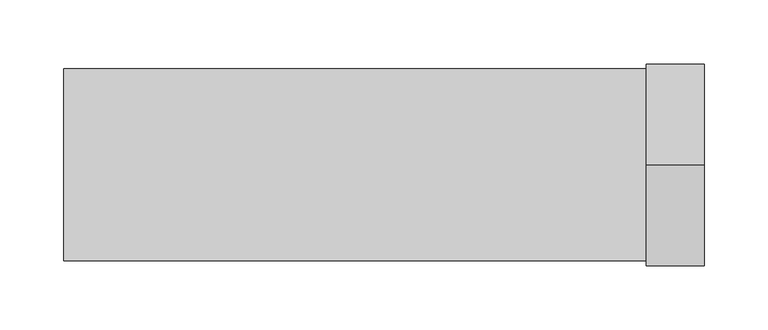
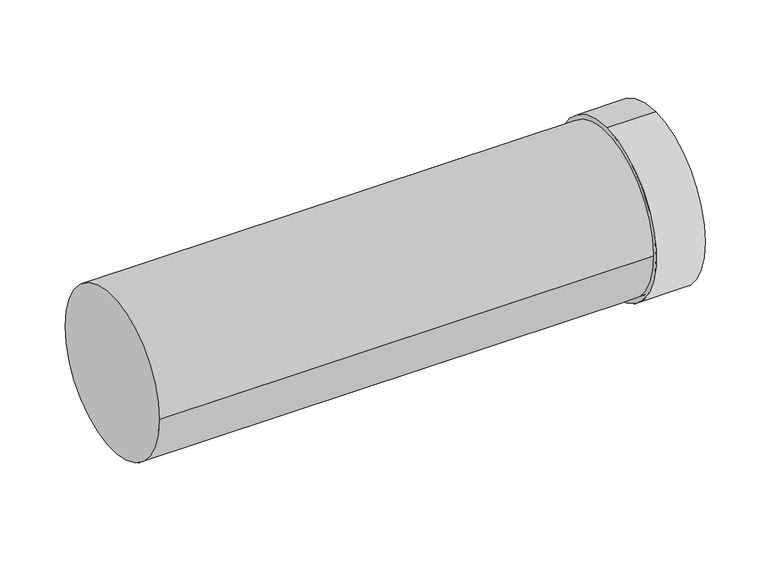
"""IFC4 building model written with IfcOpenShell, lengths in millimetres: duct fitting geometry, RSFen_DUF_UN_Twinline Extension_M&G : ø130-150-200."""

from ifc_helpers import new_model, si_unit, point, frame, origin, origin_2d, place, context, project, spatial, polyline, circle_curve, trimmed, segment, composite_curve, outline, extrude, source, transform, mapped, element, save
from ifc_brep_helpers import plane_surface, cylinder_surface, revolved_surface, advanced_brep


def duct_fitting_7c9a1def(model_context):
    return source(origin(), model_context, "Body", "SolidModel", [
        advanced_brep(
        [(500.0, 0.0, -79.0), (500.0, 0.0, 79.0), (500.0, 0.0, 75.5), (500.0, 0.0, -75.5), (455.0, 0.0, -79.0), (455.0, 0.0, 79.0), (460.0, 0.0, -75.5), (460.0, 0.0, 75.5)],
        [
            (0, 1, circle_curve(frame((500.0, 0.0, 0.0), z_axis=(1.0, 0.0, 0.0), x_axis=(0.0, 0.0, 1.0)), 79.0)),
            (1, 0, circle_curve(frame((500.0, 0.0, 0.0), z_axis=(1.0, 0.0, 0.0), x_axis=(0.0, 0.0, 1.0)), 79.0)),
            (2, 3, circle_curve(frame((500.0, 0.0, 0.0), z_axis=(-1.0, 0.0, 0.0), x_axis=(0.0, 0.0, 1.0)), 75.5)),
            (3, 2, circle_curve(frame((500.0, 0.0, 0.0), z_axis=(-1.0, 0.0, 0.0), x_axis=(0.0, 0.0, 1.0)), 75.5)),
            (4, 5, circle_curve(frame((455.0, 0.0, 0.0), z_axis=(-1.0, 0.0, 0.0), x_axis=(0.0, 0.0, 1.0)), 79.0)),
            (5, 4, circle_curve(frame((455.0, 0.0, 0.0), z_axis=(-1.0, 0.0, 0.0), x_axis=(0.0, 0.0, 1.0)), 79.0)),
            (0, 4),
            (5, 1),
            (6, 7, circle_curve(frame((460.0, 0.0, 0.0), z_axis=(1.0, 0.0, 0.0), x_axis=(0.0, 0.0, 1.0)), 75.5)),
            (7, 6, circle_curve(frame((460.0, 0.0, 0.0), z_axis=(1.0, 0.0, 0.0), x_axis=(0.0, 0.0, 1.0)), 75.5)),
            (6, 3),
            (2, 7),
        ],
        [
            plane_surface(frame((500.0, 0.0, 79.0), z_axis=(1.0, 0.0, 0.0), x_axis=(0.0, -1.0, 0.0))),
            plane_surface(frame((455.0, 0.0, 79.0), z_axis=(-1.0, 0.0, 0.0), x_axis=(0.0, 1.0, 0.0))),
            cylinder_surface(frame((455.0, 0.0, 0.0), z_axis=(1.0, 0.0, 0.0), x_axis=(0.0, 0.0, 1.0)), 79.0),
            plane_surface(frame((460.0, 0.0, 75.5), z_axis=(1.0, 0.0, 0.0), x_axis=(0.0, 1.0, 0.0))),
            revolved_surface(polyline([(500.0, 0.0, 75.5), (460.0, 0.0, 75.5)]), (460.0, 0.0, 0.0), (1.0, 0.0, 0.0)),
        ],
        [
            (0, [[1, 2], [3, 4]]),
            (1, [[5, 6]]),
            (2, [[-1, 7, -6, 8]]),
            (2, [[-2, -8, -5, -7]]),
            (3, [[9, 10]]),
            (4, [[-9, 11, -3, 12]]),
            (4, [[-10, -12, -4, -11]]),
        ],
    ),
        extrude(outline(composite_curve([segment(trimmed(circle_curve(origin_2d(), 75.0), [point((75.0, 0.0))], [point((-75.0, 0.0))], False, "CARTESIAN"), True, "CONTINUOUS"), segment(trimmed(circle_curve(origin_2d(), 75.0), [point((-75.0, 0.0))], [point((75.0, 0.0))], False, "CARTESIAN"), True, "CONTINUOUS")], self_intersect=False)), frame((-2.39e-05, 0.0, 0.0), z_axis=(1.0, 0.0, 0.0), x_axis=(0.0, 1.0, 0.0)), (0.0, 0.0, 1.0), 460.0),
    ])


if __name__ == "__main__":
    model = new_model("IFC4")
    model_context = context("Model", 3, world=origin())
    ifc_project = project(units=[si_unit("LENGTHUNIT", "METRE", prefix="MILLI")], contexts=[model_context])
    site = spatial("IfcSite", under=ifc_project)
    building = spatial("IfcBuilding", under=site)
    placement = place(None, origin())
    duct_fitting_shape = duct_fitting_7c9a1def(model_context)
    element("IfcDuctFitting", 1, ObjectType="RSFen_DUF_UN_Twinline Extension_M&G : ø130-150-200", at=placement, inside=building, context=model_context, shape_type="MappedRepresentation", body=[
        mapped(duct_fitting_shape, transform((0.0, 0.0, 0.0), x_axis=(1.0, 0.0, 0.0), y_axis=(0.0, 1.0, 0.0), z_axis=(0.0, 0.0, 1.0))),
    ])
    save(model, "model.ifc")
